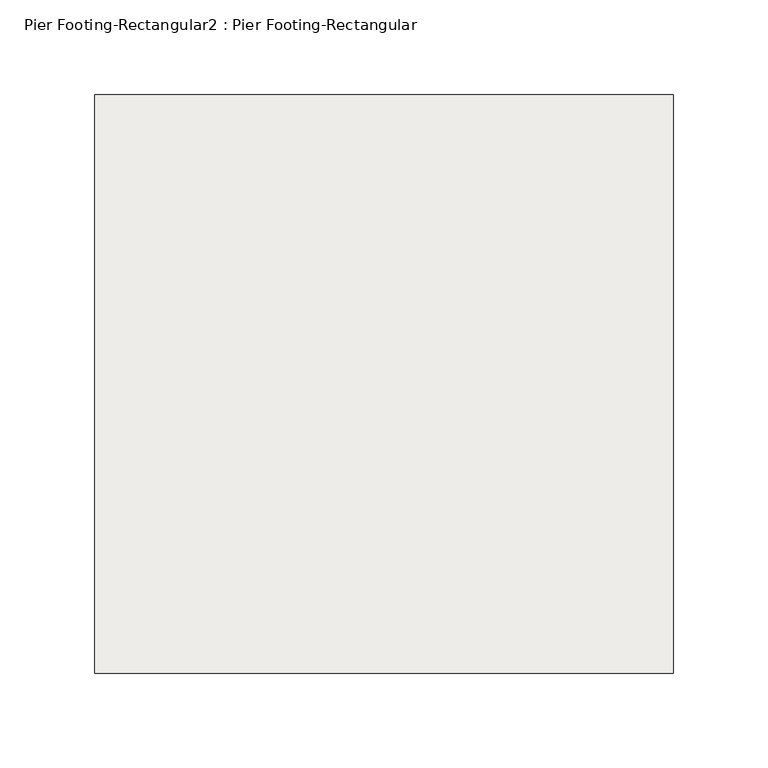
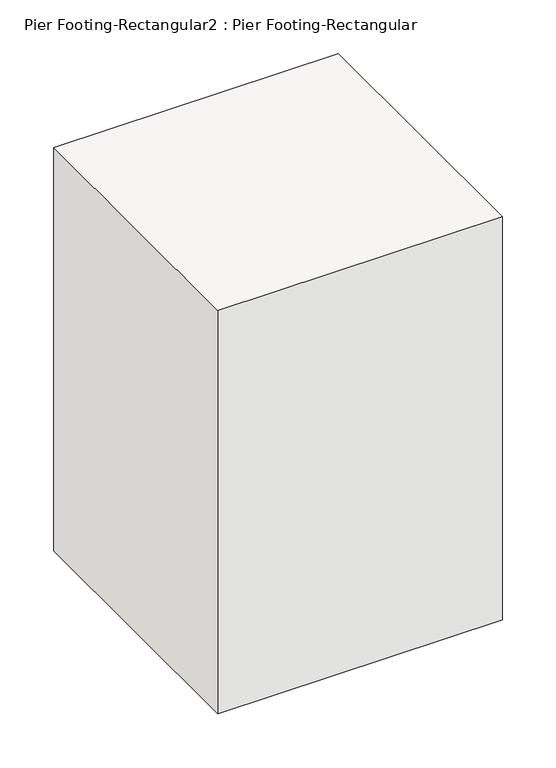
"""IFC4 building model written with IfcOpenShell, lengths in millimetres: slab geometry, Pier Footing-Rectangular2 : Pier Footing-Rectangular."""

from ifc_helpers import new_model, si_unit, origin, place, context, project, spatial, faceted_brep, source, transform, mapped, element, save


def pier_footing_rectangular2_pier_footing_rectangular_af7b8512(model_context):
    return source(origin(), model_context, "Body", "Brep", [
        faceted_brep([(551.5321363, -4678.9395394, -660.4), (551.5321363, -4374.1395394, -660.4), (856.3321363, -4374.1395394, -660.4), (856.3321363, -4678.9395394, -660.4), (551.5321363, -4678.9395394, -203.2), (856.3321363, -4678.9395394, -203.2), (856.3321363, -4374.1395394, -203.2), (551.5321363, -4374.1395394, -203.2), (551.5321363, -4374.1395394, -558.8), (551.5321363, -4678.9395394, -558.8), (856.3321363, -4374.1395394, -558.8)], [[[0, 1, 2, 3]], [[4, 5, 6, 7]], [[4, 7, 8, 1, 0, 9]], [[7, 6, 10, 2, 1, 8]], [[6, 5, 3, 2, 10]], [[5, 4, 9, 0, 3]]]),
    ])


if __name__ == "__main__":
    model = new_model("IFC4")
    model_context = context("Model", 3, world=origin())
    ifc_project = project(units=[si_unit("LENGTHUNIT", "METRE", prefix="MILLI")], contexts=[model_context])
    site = spatial("IfcSite", under=ifc_project)
    building = spatial("IfcBuilding", under=site)
    placement = place(None, origin())
    pier_footing_rectangular2_pier_footing_rectangular_shape = pier_footing_rectangular2_pier_footing_rectangular_af7b8512(model_context)
    element("IfcSlab", 1, ObjectType="Pier Footing-Rectangular2 : Pier Footing-Rectangular", at=placement, inside=building, context=model_context, shape_type="MappedRepresentation", body=[
        mapped(pier_footing_rectangular2_pier_footing_rectangular_shape, transform((0.0, 0.0, 0.0), x_axis=(1.0, 0.0, 0.0), y_axis=(0.0, 1.0, 0.0), z_axis=(0.0, 0.0, 1.0))),
    ])
    save(model, "model.ifc")
